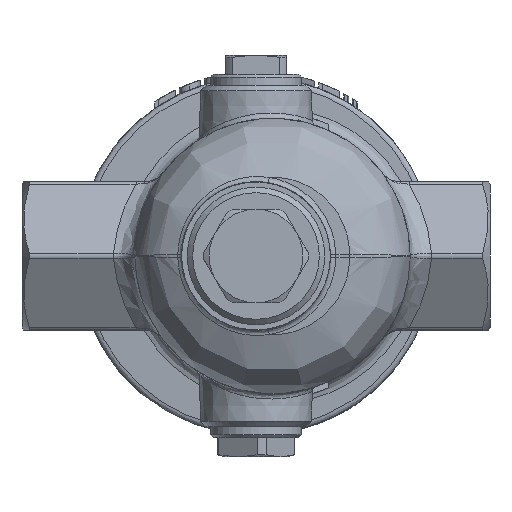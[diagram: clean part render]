
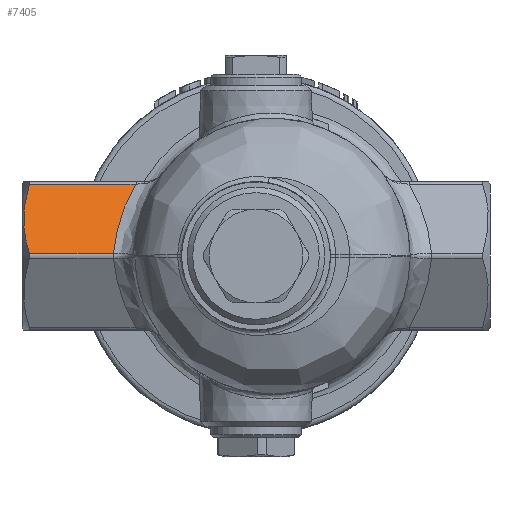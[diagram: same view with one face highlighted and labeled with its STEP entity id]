
A CAD part, front view. The second image highlights one B-rep face of the part: STEP entity #7405.
In plain terms, the highlighted planar face has unit normal (0, -0.866, 0.5).
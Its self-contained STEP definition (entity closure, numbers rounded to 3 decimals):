
#82=(
BOUNDED_CURVE()
B_SPLINE_CURVE(2,(#11665,#11666,#11667),.UNSPECIFIED.,.F.,.F.)
B_SPLINE_CURVE_WITH_KNOTS((3,3),(0.651,2.395),
 .UNSPECIFIED.)
CURVE()
GEOMETRIC_REPRESENTATION_ITEM()
RATIONAL_B_SPLINE_CURVE((1.162,1.32,1.162))
REPRESENTATION_ITEM('')
);
#477=ELLIPSE('',#7926,33.486,29.);
#1205=LINE('',#11646,#1508);
#1206=LINE('',#11664,#1509);
#1508=VECTOR('',#8736,15.255);
#1509=VECTOR('',#8741,19.363);
#1915=PLANE('',#7925);
#2053=FACE_OUTER_BOUND('',#2522,.T.);
#2522=EDGE_LOOP('',(#5259,#5260,#5261,#5262));
#3409=VERTEX_POINT('',#11644);
#3410=VERTEX_POINT('',#11645);
#3412=VERTEX_POINT('',#11662);
#3413=VERTEX_POINT('',#11663);
#4115=EDGE_CURVE('',#3409,#3410,#1205,.T.);
#4119=EDGE_CURVE('',#3412,#3413,#1206,.T.);
#4120=EDGE_CURVE('',#3412,#3410,#82,.T.);
#4121=EDGE_CURVE('',#3413,#3409,#477,.T.);
#5259=ORIENTED_EDGE('',*,*,#4119,.F.);
#5260=ORIENTED_EDGE('',*,*,#4120,.T.);
#5261=ORIENTED_EDGE('',*,*,#4115,.F.);
#5262=ORIENTED_EDGE('',*,*,#4121,.F.);
#7405=ADVANCED_FACE('',(#2053),#1915,.T.);
#7925=AXIS2_PLACEMENT_3D('',#11661,#8739,#8740);
#7926=AXIS2_PLACEMENT_3D('',#11668,#8742,#8743);
#8736=DIRECTION('',(-1.,0.,0.));
#8739=DIRECTION('center_axis',(0.,-0.866,0.5));
#8740=DIRECTION('ref_axis',(1.,0.,0.));
#8741=DIRECTION('',(1.,0.,0.));
#8742=DIRECTION('center_axis',(0.,-0.866,0.5));
#8743=DIRECTION('ref_axis',(0.,0.5,0.866));
#11644=CARTESIAN_POINT('',(-25.896,-15.329,0.45));
#11645=CARTESIAN_POINT('',(-41.152,-15.329,0.45));
#11646=CARTESIAN_POINT('',(0.,-15.329,0.45));
#11661=CARTESIAN_POINT('Origin',(0.,-15.588,0.));
#11662=CARTESIAN_POINT('',(-41.152,-8.054,13.05));
#11663=CARTESIAN_POINT('',(-21.789,-8.054,13.05));
#11664=CARTESIAN_POINT('',(0.,-8.054,13.05));
#11665=CARTESIAN_POINT('Ctrl Pts',(-41.152,-8.054,
13.05));
#11666=CARTESIAN_POINT('Ctrl Pts',(-43.144,-11.691,
6.75));
#11667=CARTESIAN_POINT('Ctrl Pts',(-41.152,-15.329,
0.45));
#11668=CARTESIAN_POINT('Origin',(3.,-16.743,-2.));
